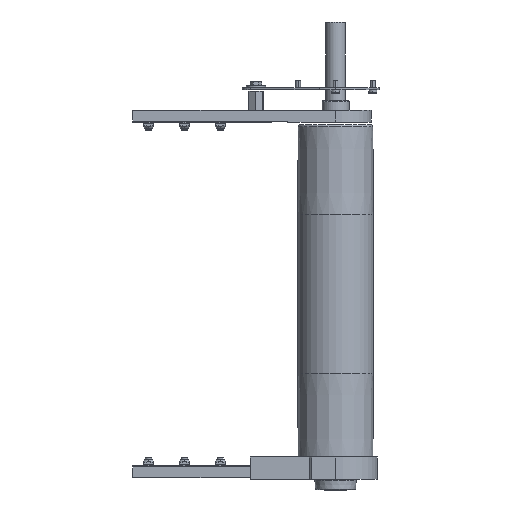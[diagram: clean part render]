
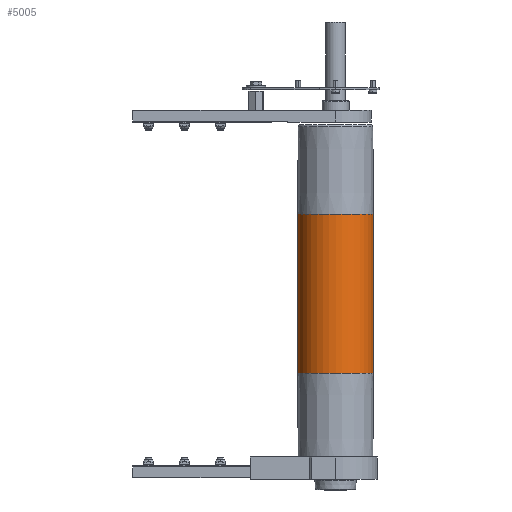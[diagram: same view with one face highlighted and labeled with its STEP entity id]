
A CAD part, front view. The second image highlights one B-rep face of the part: STEP entity #5005.
In plain terms, the highlighted cylindrical face has radius 47.5 mm (diameter 95 mm), a partial arc.
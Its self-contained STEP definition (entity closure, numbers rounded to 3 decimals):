
#201 = ORIENTED_EDGE ( 'NONE', *, *, #14073, .F. ) ;
#202 = ORIENTED_EDGE ( 'NONE', *, *, #14079, .F. ) ;
#203 = ORIENTED_EDGE ( 'NONE', *, *, #14074, .T. ) ;
#204 = ORIENTED_EDGE ( 'NONE', *, *, #14080, .T. ) ;
#1593 = CYLINDRICAL_SURFACE ( 'NONE', #24968, 47.5 ) ;
#1597 = FACE_OUTER_BOUND ( 'NONE', #18915, .T. ) ;
#2526 = CARTESIAN_POINT ( 'NONE',  ( 0., 0., 210. ) ) ;
#2550 = DIRECTION ( 'NONE',  ( -1., 0., 0. ) ) ;
#2578 = DIRECTION ( 'NONE',  ( 0., 0., -1. ) ) ;
#4776 = CIRCLE ( 'NONE', #18231, 47.5 ) ;
#4777 = CIRCLE ( 'NONE', #18230, 47.5 ) ;
#4783 = VECTOR ( 'NONE', #14847, 1000. ) ;
#4785 = VECTOR ( 'NONE', #14856, 1000. ) ;
#4786 = LINE ( 'NONE', #14849, #4783 ) ;
#4789 = LINE ( 'NONE', #14854, #4785 ) ;
#5005 = ADVANCED_FACE ( 'NONE', ( #1597 ), #1593, .T. ) ;
#7320 = CARTESIAN_POINT ( 'NONE',  ( 47.5, 0., -100. ) ) ;
#7487 = CARTESIAN_POINT ( 'NONE',  ( 47.5, 0., 100. ) ) ;
#7760 = CARTESIAN_POINT ( 'NONE',  ( -47.5, 0., -100. ) ) ;
#7836 = CARTESIAN_POINT ( 'NONE',  ( -47.5, 0., 100. ) ) ;
#14073 = EDGE_CURVE ( 'NONE', #21472, #21610, #4789, .T. ) ;
#14074 = EDGE_CURVE ( 'NONE', #21079, #21137, #4786, .T. ) ;
#14079 = EDGE_CURVE ( 'NONE', #21079, #21472, #4777, .T. ) ;
#14080 = EDGE_CURVE ( 'NONE', #21137, #21610, #4776, .T. ) ;
#14820 = DIRECTION ( 'NONE',  ( 1., 0., 0. ) ) ;
#14823 = DIRECTION ( 'NONE',  ( 0., 0., 1. ) ) ;
#14826 = CARTESIAN_POINT ( 'NONE',  ( 0., 0., -100. ) ) ;
#14831 = DIRECTION ( 'NONE',  ( 1., 0., 0. ) ) ;
#14832 = DIRECTION ( 'NONE',  ( 0., 0., 1. ) ) ;
#14834 = CARTESIAN_POINT ( 'NONE',  ( 0., 0., 100. ) ) ;
#14847 = DIRECTION ( 'NONE',  ( 0., 0., -1. ) ) ;
#14849 = CARTESIAN_POINT ( 'NONE',  ( -47.5, 0., 210. ) ) ;
#14854 = CARTESIAN_POINT ( 'NONE',  ( 47.5, 0., 210. ) ) ;
#14856 = DIRECTION ( 'NONE',  ( 0., 0., -1. ) ) ;
#18230 = AXIS2_PLACEMENT_3D ( 'NONE', #14834, #14832, #14831 ) ;
#18231 = AXIS2_PLACEMENT_3D ( 'NONE', #14826, #14823, #14820 ) ;
#18915 = EDGE_LOOP ( 'NONE', ( #201, #202, #203, #204 ) ) ;
#21079 = VERTEX_POINT ( 'NONE', #7836 ) ;
#21137 = VERTEX_POINT ( 'NONE', #7760 ) ;
#21472 = VERTEX_POINT ( 'NONE', #7487 ) ;
#21610 = VERTEX_POINT ( 'NONE', #7320 ) ;
#24968 = AXIS2_PLACEMENT_3D ( 'NONE', #2526, #2578, #2550 ) ;
